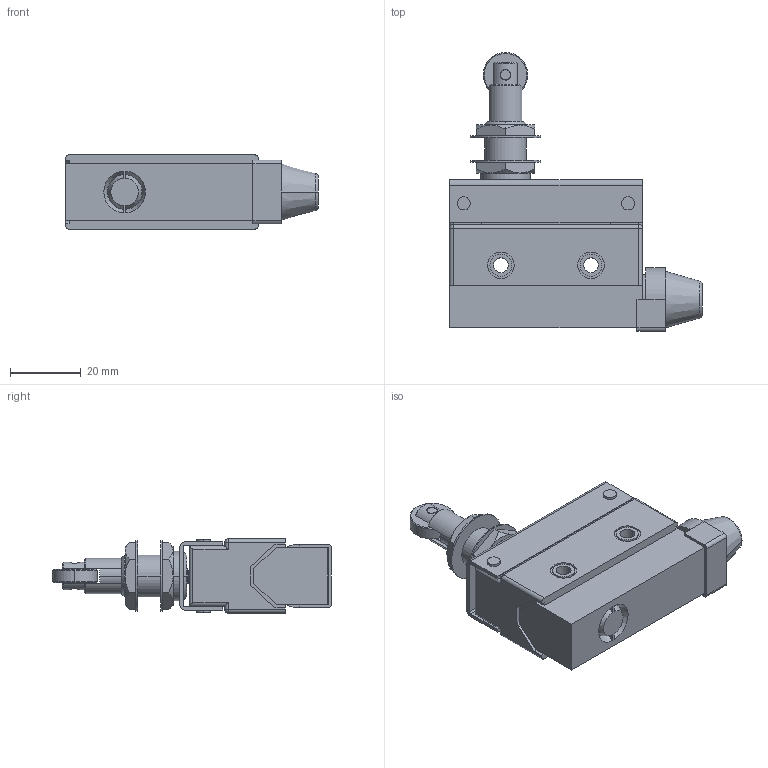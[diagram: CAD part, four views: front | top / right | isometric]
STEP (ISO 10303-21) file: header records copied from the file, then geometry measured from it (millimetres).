
FILE_DESCRIPTION (( 'STEP AP203' ), '1' );
FILE_NAME ('FM7311.STEP', '2018-03-23T13:20:50', ( '' ), ( '' ), 'SwSTEP 2.0', 'SolidWorks 2012', '' );
FILE_SCHEMA (( 'CONFIG_CONTROL_DESIGN' ));
Length unit declared in the file: millimetre
Products named in the file (1): FM7311
Bounding box: 71.5 x 78.9 x 21 mm (x, y, z)
Volume: 46546.1 mm3; surface area: 18627.9 mm2
Topology: 2 solids, 3 shells, 330 faces, 798 edges, 497 vertices
Faces by surface type: plane 136, cylinder 121, cone 40, torus 22, sphere 8, bspline 3
Entity records: 12569 total; most frequent: CARTESIAN_POINT 4696, DIRECTION 1690, ORIENTED_EDGE 1568, EDGE_CURVE 784, AXIS2_PLACEMENT_3D 650, VERTEX_POINT 497, EDGE_LOOP 391, VECTOR 390
